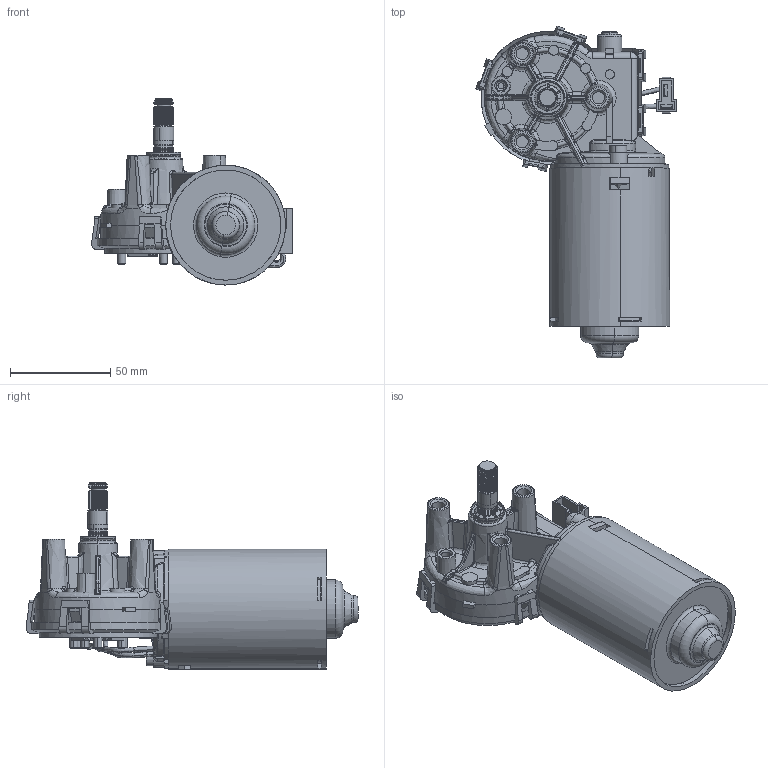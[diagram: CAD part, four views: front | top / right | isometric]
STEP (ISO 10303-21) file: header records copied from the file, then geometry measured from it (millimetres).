
FILE_DESCRIPTION(('CATIA V5 STEP Exchange'),'2;1');
FILE_NAME('R:\ED_ENG3\01_Desenv\catia_v5\PROJETOS\BOSCH\Global_Plataform\F006B20096\F006B20096.stp','2010-07-16T14:04:13+00:00',('none'),('none'),'CATIA Version 5 Release 16 (IN-10)','CATIA V5 STEP AP214','none');
FILE_SCHEMA(('AUTOMOTIVE_DESIGN { 1 0 10303 214 1 1 1 1 }'));
Products named in the file (1): F006B20096
Bounding box: 100.2 x 165.71 x 92.92 mm (x, y, z)
Volume: 100792.8 mm3; surface area: 91278.8 mm2
Topology: 3 solids, 4 shells, 2028 faces, 5715 edges, 3644 vertices
Faces by surface type: plane 777, cylinder 545, bspline 318, cone 230, torus 145, extrusion 10, revolution 3
Entity records: 93969 total; most frequent: CARTESIAN_POINT 35331, ORIENTED_EDGE 11334, DIRECTION 5841, EDGE_CURVE 5667, VERTEX_POINT 3644, AXIS2_PLACEMENT_3D 2545, VECTOR 2275, LINE 2265
